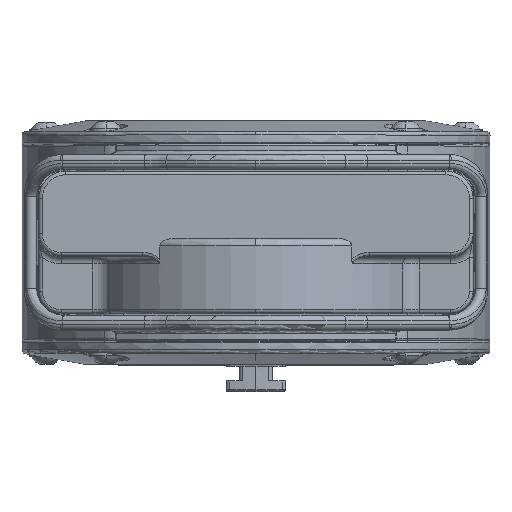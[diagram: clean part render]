
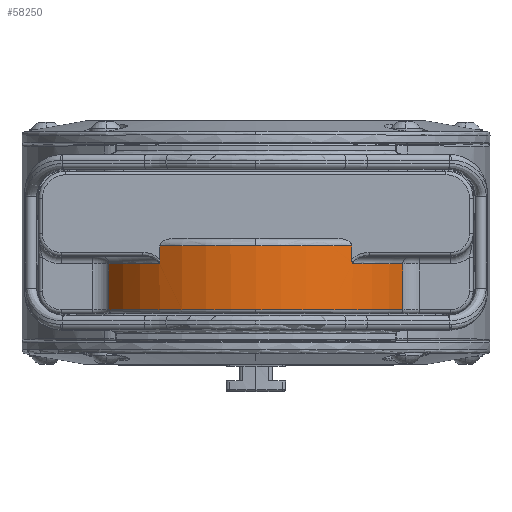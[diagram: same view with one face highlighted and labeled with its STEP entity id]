
A CAD part, top view. The second image highlights one B-rep face of the part: STEP entity #58250.
In plain terms, the highlighted cylindrical face has radius 45 mm (diameter 90 mm), a partial arc.
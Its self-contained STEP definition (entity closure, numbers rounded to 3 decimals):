
#1717 = CARTESIAN_POINT ( 'NONE',  ( 25.612, -44.104, 69.5 ) ) ;
#5278 = CARTESIAN_POINT ( 'NONE',  ( 0., -40.198, 32.5 ) ) ;
#6290 = CARTESIAN_POINT ( 'NONE',  ( 0., -57.198, 32.5 ) ) ;
#8465 = CARTESIAN_POINT ( 'NONE',  ( -25.612, -44.104, 69.5 ) ) ;
#12444 = EDGE_CURVE ( 'NONE', #95265, #76700, #59947, .T. ) ;
#12794 = CIRCLE ( 'NONE', #33029, 45. ) ;
#12965 = CARTESIAN_POINT ( 'NONE',  ( -39.228, -57.198, 54.55 ) ) ;
#13367 = CARTESIAN_POINT ( 'NONE',  ( 0., -40.198, 77.5 ) ) ;
#13896 = CARTESIAN_POINT ( 'NONE',  ( 39.228, -44.948, 54.55 ) ) ;
#16634 = VERTEX_POINT ( 'NONE', #13896 ) ;
#17232 = EDGE_CURVE ( 'NONE', #28992, #144699, #102450, .T. ) ;
#18734 = VECTOR ( 'NONE', #144763, 1000. ) ;
#18913 = VERTEX_POINT ( 'NONE', #65684 ) ;
#19561 = ORIENTED_EDGE ( 'NONE', *, *, #17232, .T. ) ;
#22921 = CIRCLE ( 'NONE', #124090, 45. ) ;
#24750 = CARTESIAN_POINT ( 'NONE',  ( 25.612, -43.92, 69.5 ) ) ;
#26376 = FACE_OUTER_BOUND ( 'NONE', #44754, .T. ) ;
#27173 = DIRECTION ( 'NONE',  ( 0., 0., -1. ) ) ;
#28740 = DIRECTION ( 'NONE',  ( 0., -1., 0. ) ) ;
#28992 = VERTEX_POINT ( 'NONE', #54374 ) ;
#29924 = CARTESIAN_POINT ( 'NONE',  ( -25.633, -44.283, 69.486 ) ) ;
#33024 = CARTESIAN_POINT ( 'NONE',  ( -25.787, -44.8, 69.378 ) ) ;
#33029 = AXIS2_PLACEMENT_3D ( 'NONE', #43566, #42787, #56290 ) ;
#34767 = EDGE_CURVE ( 'NONE', #45997, #95265, #72055, .T. ) ;
#35801 = CARTESIAN_POINT ( 'NONE',  ( -39.228, -38.198, 54.55 ) ) ;
#36191 = EDGE_CURVE ( 'NONE', #16634, #92911, #140616, .T. ) ;
#36303 = CIRCLE ( 'NONE', #112088, 45. ) ;
#37329 = DIRECTION ( 'NONE',  ( 0., -1., 0. ) ) ;
#37943 = CARTESIAN_POINT ( 'NONE',  ( 25.612, -38.198, 69.5 ) ) ;
#39386 = DIRECTION ( 'NONE',  ( 0., -1., 0. ) ) ;
#42787 = DIRECTION ( 'NONE',  ( 0., -1., 0. ) ) ;
#43566 = CARTESIAN_POINT ( 'NONE',  ( 0., -44.948, 32.5 ) ) ;
#44754 = EDGE_LOOP ( 'NONE', ( #125889, #99073, #113032, #134842, #104521, #119138, #128595, #138414, #89640, #92590, #19561, #122806 ) ) ;
#45997 = VERTEX_POINT ( 'NONE', #137550 ) ;
#48889 = CARTESIAN_POINT ( 'NONE',  ( -25.873, -44.948, 69.318 ) ) ;
#52142 = DIRECTION ( 'NONE',  ( 0., 0., 1. ) ) ;
#52831 = VECTOR ( 'NONE', #37329, 1000. ) ;
#53110 = DIRECTION ( 'NONE',  ( 0., 1., 0. ) ) ;
#54374 = CARTESIAN_POINT ( 'NONE',  ( -25.612, -43.92, 69.5 ) ) ;
#56290 = DIRECTION ( 'NONE',  ( 1., 0., 0. ) ) ;
#58250 = ADVANCED_FACE ( 'NONE', ( #26376 ), #120582, .T. ) ;
#59947 = CIRCLE ( 'NONE', #80088, 45. ) ;
#63042 = CARTESIAN_POINT ( 'NONE',  ( 0., -57.198, 77.5 ) ) ;
#64011 = VERTEX_POINT ( 'NONE', #144829 ) ;
#65684 = CARTESIAN_POINT ( 'NONE',  ( 39.228, -57.198, 54.55 ) ) ;
#67463 = AXIS2_PLACEMENT_3D ( 'NONE', #107802, #155215, #144121 ) ;
#68807 = DIRECTION ( 'NONE',  ( 0., -1., 0. ) ) ;
#69243 = CARTESIAN_POINT ( 'NONE',  ( 25.719, -44.632, 69.426 ) ) ;
#72055 = LINE ( 'NONE', #37943, #18734 ) ;
#72113 = CARTESIAN_POINT ( 'NONE',  ( 25.612, -40.198, 69.5 ) ) ;
#73250 = EDGE_CURVE ( 'NONE', #64011, #28992, #79079, .T. ) ;
#73839 = CARTESIAN_POINT ( 'NONE',  ( 25.633, -44.283, 69.486 ) ) ;
#74974 = CARTESIAN_POINT ( 'NONE',  ( 0., -57.198, 32.5 ) ) ;
#76498 = VECTOR ( 'NONE', #68807, 1000. ) ;
#76700 = VERTEX_POINT ( 'NONE', #13367 ) ;
#79079 = LINE ( 'NONE', #129570, #76498 ) ;
#80088 = AXIS2_PLACEMENT_3D ( 'NONE', #83161, #142470, #117223 ) ;
#80973 = VERTEX_POINT ( 'NONE', #12965 ) ;
#83161 = CARTESIAN_POINT ( 'NONE',  ( 0., -40.198, 32.5 ) ) ;
#83738 = DIRECTION ( 'NONE',  ( 0., 0., 1. ) ) ;
#85542 = EDGE_CURVE ( 'NONE', #80973, #126225, #22921, .T. ) ;
#86859 = DIRECTION ( 'NONE',  ( 0., 1., 0. ) ) ;
#89640 = ORIENTED_EDGE ( 'NONE', *, *, #131662, .T. ) ;
#92590 = ORIENTED_EDGE ( 'NONE', *, *, #73250, .T. ) ;
#92911 = VERTEX_POINT ( 'NONE', #107372 ) ;
#95265 = VERTEX_POINT ( 'NONE', #72113 ) ;
#97981 = CARTESIAN_POINT ( 'NONE',  ( 39.228, -38.198, 54.55 ) ) ;
#99073 = ORIENTED_EDGE ( 'NONE', *, *, #85542, .T. ) ;
#101101 = LINE ( 'NONE', #97981, #104552 ) ;
#102450 = B_SPLINE_CURVE_WITH_KNOTS ( 'NONE', 3,
 ( #138203, #8465, #29924, #127187, #33024, #48889 ),
 .UNSPECIFIED., .F., .F.,
 ( 4, 2, 4 ),
 ( 0., 0.001, 0.001 ),
 .UNSPECIFIED. ) ;
#104521 = ORIENTED_EDGE ( 'NONE', *, *, #36191, .T. ) ;
#104552 = VECTOR ( 'NONE', #86859, 1000. ) ;
#104815 = CARTESIAN_POINT ( 'NONE',  ( 25.873, -44.948, 69.318 ) ) ;
#107372 = CARTESIAN_POINT ( 'NONE',  ( 25.873, -44.948, 69.318 ) ) ;
#107802 = CARTESIAN_POINT ( 'NONE',  ( 0., -44.948, 32.5 ) ) ;
#107963 = CIRCLE ( 'NONE', #123065, 45. ) ;
#109792 = DIRECTION ( 'NONE',  ( 0., 1., 0. ) ) ;
#112088 = AXIS2_PLACEMENT_3D ( 'NONE', #5278, #39386, #52142 ) ;
#113032 = ORIENTED_EDGE ( 'NONE', *, *, #125834, .T. ) ;
#114736 = DIRECTION ( 'NONE',  ( 0., 0., 1. ) ) ;
#116774 = VERTEX_POINT ( 'NONE', #147973 ) ;
#117223 = DIRECTION ( 'NONE',  ( 0., 0., 1. ) ) ;
#118555 = EDGE_CURVE ( 'NONE', #116774, #80973, #144934, .T. ) ;
#119138 = ORIENTED_EDGE ( 'NONE', *, *, #151083, .T. ) ;
#120582 = CYLINDRICAL_SURFACE ( 'NONE', #155442, 45. ) ;
#122806 = ORIENTED_EDGE ( 'NONE', *, *, #156563, .T. ) ;
#123065 = AXIS2_PLACEMENT_3D ( 'NONE', #6290, #53110, #114736 ) ;
#124090 = AXIS2_PLACEMENT_3D ( 'NONE', #74974, #109792, #83738 ) ;
#125109 = CARTESIAN_POINT ( 'NONE',  ( -25.873, -44.948, 69.318 ) ) ;
#125834 = EDGE_CURVE ( 'NONE', #126225, #18913, #107963, .T. ) ;
#125889 = ORIENTED_EDGE ( 'NONE', *, *, #118555, .T. ) ;
#126225 = VERTEX_POINT ( 'NONE', #63042 ) ;
#127187 = CARTESIAN_POINT ( 'NONE',  ( -25.719, -44.632, 69.426 ) ) ;
#128595 = ORIENTED_EDGE ( 'NONE', *, *, #34767, .T. ) ;
#129216 = CARTESIAN_POINT ( 'NONE',  ( 25.787, -44.799, 69.379 ) ) ;
#129570 = CARTESIAN_POINT ( 'NONE',  ( -25.612, -38.198, 69.5 ) ) ;
#130766 = EDGE_CURVE ( 'NONE', #18913, #16634, #101101, .T. ) ;
#131662 = EDGE_CURVE ( 'NONE', #76700, #64011, #36303, .T. ) ;
#134842 = ORIENTED_EDGE ( 'NONE', *, *, #130766, .T. ) ;
#135419 = CARTESIAN_POINT ( 'NONE',  ( 0., -38.198, 32.5 ) ) ;
#137550 = CARTESIAN_POINT ( 'NONE',  ( 25.612, -43.92, 69.5 ) ) ;
#138203 = CARTESIAN_POINT ( 'NONE',  ( -25.612, -43.92, 69.5 ) ) ;
#138414 = ORIENTED_EDGE ( 'NONE', *, *, #12444, .T. ) ;
#140616 = CIRCLE ( 'NONE', #67463, 45. ) ;
#142470 = DIRECTION ( 'NONE',  ( 0., -1., 0. ) ) ;
#142624 = B_SPLINE_CURVE_WITH_KNOTS ( 'NONE', 3,
 ( #104815, #129216, #69243, #73839, #1717, #24750 ),
 .UNSPECIFIED., .F., .F.,
 ( 4, 2, 4 ),
 ( 0., 0.001, 0.001 ),
 .UNSPECIFIED. ) ;
#144121 = DIRECTION ( 'NONE',  ( 1., 0., 0. ) ) ;
#144699 = VERTEX_POINT ( 'NONE', #125109 ) ;
#144763 = DIRECTION ( 'NONE',  ( 0., 1., 0. ) ) ;
#144829 = CARTESIAN_POINT ( 'NONE',  ( -25.612, -40.198, 69.5 ) ) ;
#144934 = LINE ( 'NONE', #35801, #52831 ) ;
#147973 = CARTESIAN_POINT ( 'NONE',  ( -39.228, -44.948, 54.55 ) ) ;
#151083 = EDGE_CURVE ( 'NONE', #92911, #45997, #142624, .T. ) ;
#155215 = DIRECTION ( 'NONE',  ( 0., -1., 0. ) ) ;
#155442 = AXIS2_PLACEMENT_3D ( 'NONE', #135419, #28740, #27173 ) ;
#156563 = EDGE_CURVE ( 'NONE', #144699, #116774, #12794, .T. ) ;
